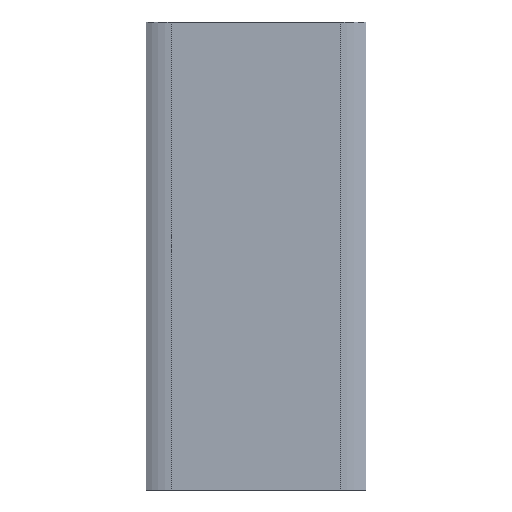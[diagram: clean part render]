
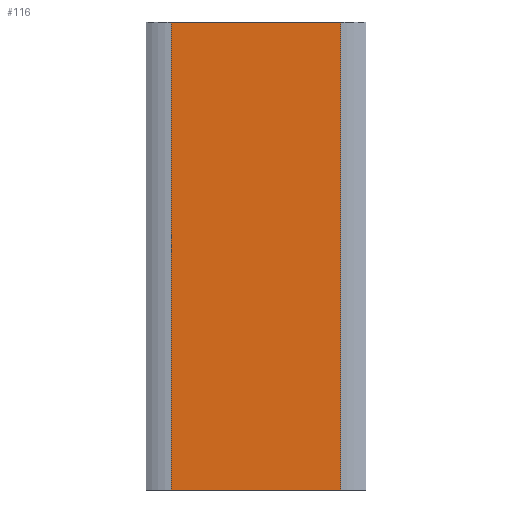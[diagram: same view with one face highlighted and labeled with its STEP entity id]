
A CAD part, left-side view. The second image highlights one B-rep face of the part: STEP entity #116.
In plain terms, the highlighted planar face has unit normal (-1, 0, 0).
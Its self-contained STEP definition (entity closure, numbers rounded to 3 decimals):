
#23 = EDGE_LOOP ( 'NONE', ( #1027, #399, #805, #430 ) ) ;
#24 = VECTOR ( 'NONE', #98, 1000. ) ;
#44 = PLANE ( 'NONE',  #730 ) ;
#98 = DIRECTION ( 'NONE',  ( 0., -1., 0. ) ) ;
#116 = ADVANCED_FACE ( 'NONE', ( #733 ), #44, .F. ) ;
#134 = EDGE_CURVE ( 'NONE', #1002, #169, #638, .T. ) ;
#140 = CARTESIAN_POINT ( 'NONE',  ( -4.8, 18.805, 100. ) ) ;
#169 = VERTEX_POINT ( 'NONE', #957 ) ;
#195 = EDGE_CURVE ( 'NONE', #1002, #459, #984, .T. ) ;
#198 = VERTEX_POINT ( 'NONE', #569 ) ;
#213 = EDGE_CURVE ( 'NONE', #169, #198, #716, .T. ) ;
#245 = LINE ( 'NONE', #593, #24 ) ;
#277 = VECTOR ( 'NONE', #718, 1000. ) ;
#399 = ORIENTED_EDGE ( 'NONE', *, *, #213, .F. ) ;
#401 = CARTESIAN_POINT ( 'NONE',  ( -4.8, -17.355, 100. ) ) ;
#430 = ORIENTED_EDGE ( 'NONE', *, *, #195, .T. ) ;
#459 = VERTEX_POINT ( 'NONE', #892 ) ;
#463 = EDGE_CURVE ( 'NONE', #459, #198, #245, .T. ) ;
#525 = VECTOR ( 'NONE', #1016, 1000. ) ;
#569 = CARTESIAN_POINT ( 'NONE',  ( -4.8, -17.355, 0. ) ) ;
#593 = CARTESIAN_POINT ( 'NONE',  ( -4.8, 18.805, 0. ) ) ;
#632 = DIRECTION ( 'NONE',  ( 0., 0., -1. ) ) ;
#638 = LINE ( 'NONE', #782, #525 ) ;
#700 = DIRECTION ( 'NONE',  ( 1., 0., 0. ) ) ;
#716 = LINE ( 'NONE', #401, #277 ) ;
#718 = DIRECTION ( 'NONE',  ( 0., 0., -1. ) ) ;
#730 = AXIS2_PLACEMENT_3D ( 'NONE', #1013, #700, #855 ) ;
#733 = FACE_OUTER_BOUND ( 'NONE', #23, .T. ) ;
#782 = CARTESIAN_POINT ( 'NONE',  ( -4.8, 18.805, 100. ) ) ;
#805 = ORIENTED_EDGE ( 'NONE', *, *, #134, .F. ) ;
#855 = DIRECTION ( 'NONE',  ( 0., 0., -1. ) ) ;
#892 = CARTESIAN_POINT ( 'NONE',  ( -4.8, 18.805, 0. ) ) ;
#924 = CARTESIAN_POINT ( 'NONE',  ( -4.8, 18.805, 100. ) ) ;
#957 = CARTESIAN_POINT ( 'NONE',  ( -4.8, -17.355, 100. ) ) ;
#984 = LINE ( 'NONE', #140, #1034 ) ;
#1002 = VERTEX_POINT ( 'NONE', #924 ) ;
#1013 = CARTESIAN_POINT ( 'NONE',  ( -4.8, 18.805, 100. ) ) ;
#1016 = DIRECTION ( 'NONE',  ( 0., -1., 0. ) ) ;
#1027 = ORIENTED_EDGE ( 'NONE', *, *, #463, .T. ) ;
#1034 = VECTOR ( 'NONE', #632, 1000. ) ;
